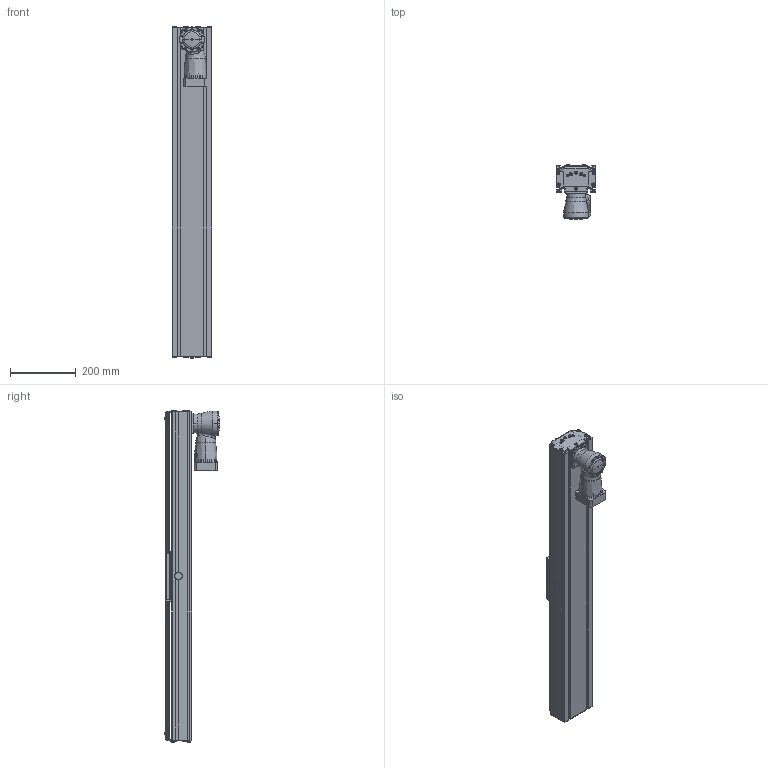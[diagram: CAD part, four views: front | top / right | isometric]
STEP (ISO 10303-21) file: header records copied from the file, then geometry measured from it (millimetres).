
FILE_DESCRIPTION (( 'STEP AP214' ), '1' );
FILE_NAME ('DSZPVI -120.STEP', '2016-01-15T07:39:59', ( 'admin' ), ( '' ), 'SwSTEP 2.0', 'SolidWorks 2015', '' );
FILE_SCHEMA (( 'AUTOMOTIVE_DESIGN' ));
Length unit declared in the file: millimetre
Products named in the file (7): Lagerstückplatte DSZPVI 120 - Spannseite - ED; Lagerstückplatte DSZPVI 120 - ED; Kopie von Führungsprofil DSZPVI 120 l=207 Grundlänge^Kopie von Führung DSZPVI 120_ DSZPVI 120 - ED; DSZPVI -120; Führungsschlitten DS 120 P - Standard - 4 Wagen - ED; SK+060S-MF1-4-0C1; Kopie von Führung DSZPVI 120^ DSZPVI 120 - ED
Assembly tree (6 placements, depth 3):
  DSZPVI -120
    Kopie von Führung DSZPVI 120^ DSZPVI 120 - ED
      Kopie von Führungsprofil DSZPVI 120 l=207 Grundlänge^Kopie von Führung DSZPVI 120_ DSZPVI 120 - ED
      Lagerstückplatte DSZPVI 120 - ED
      Lagerstückplatte DSZPVI 120 - Spannseite - ED
    SK+060S-MF1-4-0C1
    Führungsschlitten DS 120 P - Standard - 4 Wagen - ED
Bounding box: 120 x 167.1 x 1007.96 mm (x, y, z)
Volume: 4604991.7 mm3; surface area: 1092204.5 mm2
Topology: 63 solids, 63 shells, 2032 faces, 4970 edges, 3070 vertices
Faces by surface type: plane 940, cylinder 596, cone 277, bspline 103, torus 70, sphere 46
Entity records: 97347 total; most frequent: CARTESIAN_POINT 27392, DIRECTION 10368, ORIENTED_EDGE 9702, EDGE_CURVE 4851, AXIS2_PLACEMENT_3D 3908, VERTEX_POINT 3058, LINE 2552, VECTOR 2552
